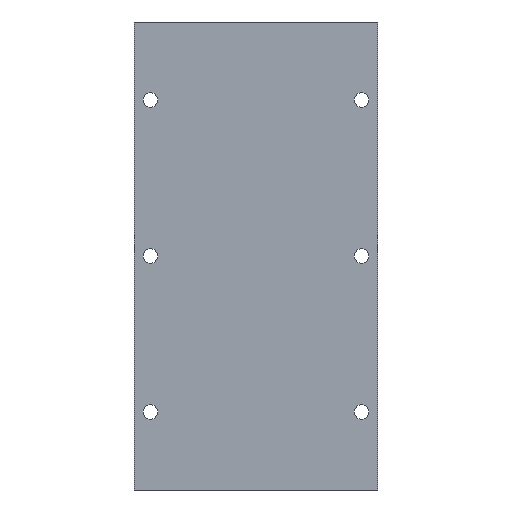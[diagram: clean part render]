
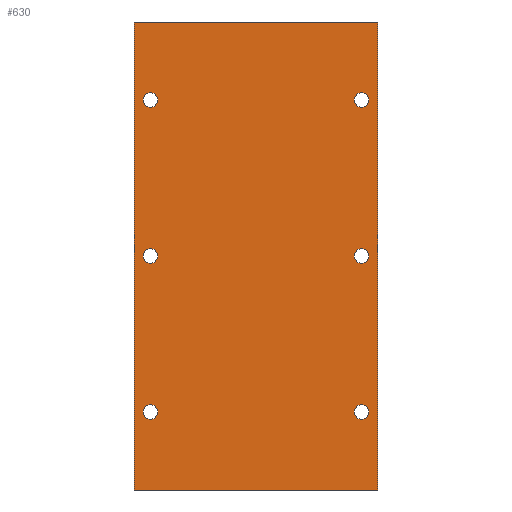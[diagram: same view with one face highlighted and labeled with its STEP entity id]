
A CAD part, front view. The second image highlights one B-rep face of the part: STEP entity #630.
In plain terms, the highlighted planar face has unit normal (0, -1, 0).
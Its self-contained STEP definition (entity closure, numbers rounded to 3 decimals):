
#14 = VERTEX_POINT ( 'NONE', #584 ) ;
#15 = DIRECTION ( 'NONE',  ( 0., 1., 0. ) ) ;
#17 = CARTESIAN_POINT ( 'NONE',  ( 37.5, -3., 0. ) ) ;
#20 = VECTOR ( 'NONE', #287, 1000. ) ;
#23 = CARTESIAN_POINT ( 'NONE',  ( -32.5, -3., 21.75 ) ) ;
#24 = ORIENTED_EDGE ( 'NONE', *, *, #634, .T. ) ;
#29 = VERTEX_POINT ( 'NONE', #399 ) ;
#30 = DIRECTION ( 'NONE',  ( 0., 1., 0. ) ) ;
#37 = ORIENTED_EDGE ( 'NONE', *, *, #552, .T. ) ;
#43 = CARTESIAN_POINT ( 'NONE',  ( -32.5, -3., 26.25 ) ) ;
#46 = EDGE_CURVE ( 'NONE', #29, #692, #759, .T. ) ;
#47 = ORIENTED_EDGE ( 'NONE', *, *, #567, .F. ) ;
#48 = VERTEX_POINT ( 'NONE', #166 ) ;
#57 = DIRECTION ( 'NONE',  ( 0., 1., 0. ) ) ;
#58 = VECTOR ( 'NONE', #279, 1000. ) ;
#74 = FACE_BOUND ( 'NONE', #464, .T. ) ;
#79 = FACE_BOUND ( 'NONE', #725, .T. ) ;
#84 = CARTESIAN_POINT ( 'NONE',  ( 32.5, -3., 24. ) ) ;
#90 = ORIENTED_EDGE ( 'NONE', *, *, #327, .T. ) ;
#93 = CARTESIAN_POINT ( 'NONE',  ( 32.5, -3., 72. ) ) ;
#98 = CIRCLE ( 'NONE', #276, 2.25 ) ;
#100 = EDGE_CURVE ( 'NONE', #692, #29, #314, .T. ) ;
#107 = CARTESIAN_POINT ( 'NONE',  ( -32.5, -3., 120. ) ) ;
#108 = DIRECTION ( 'NONE',  ( 0., 0., 1. ) ) ;
#111 = DIRECTION ( 'NONE',  ( 0., 1., 0. ) ) ;
#113 = EDGE_LOOP ( 'NONE', ( #421, #518 ) ) ;
#121 = DIRECTION ( 'NONE',  ( 0., 0., 1. ) ) ;
#123 = CIRCLE ( 'NONE', #160, 2.25 ) ;
#132 = ORIENTED_EDGE ( 'NONE', *, *, #624, .T. ) ;
#135 = DIRECTION ( 'NONE',  ( 0., 0., 1. ) ) ;
#145 = CARTESIAN_POINT ( 'NONE',  ( -32.5, -3., 72. ) ) ;
#150 = AXIS2_PLACEMENT_3D ( 'NONE', #686, #386, #753 ) ;
#156 = VERTEX_POINT ( 'NONE', #730 ) ;
#159 = DIRECTION ( 'NONE',  ( 0., 1., 0. ) ) ;
#160 = AXIS2_PLACEMENT_3D ( 'NONE', #377, #30, #559 ) ;
#166 = CARTESIAN_POINT ( 'NONE',  ( 32.5, -3., 69.75 ) ) ;
#174 = CARTESIAN_POINT ( 'NONE',  ( 32.5, -3., 74.25 ) ) ;
#176 = CARTESIAN_POINT ( 'NONE',  ( -32.5, -3., 24. ) ) ;
#184 = CARTESIAN_POINT ( 'NONE',  ( -32.5, -3., 24. ) ) ;
#192 = AXIS2_PLACEMENT_3D ( 'NONE', #84, #452, #381 ) ;
#193 = CIRCLE ( 'NONE', #351, 2.25 ) ;
#194 = DIRECTION ( 'NONE',  ( 0., 1., 0. ) ) ;
#195 = VERTEX_POINT ( 'NONE', #440 ) ;
#203 = VERTEX_POINT ( 'NONE', #23 ) ;
#213 = CARTESIAN_POINT ( 'NONE',  ( 32.5, -3., 117.75 ) ) ;
#218 = CARTESIAN_POINT ( 'NONE',  ( 32.5, -3., 24. ) ) ;
#220 = DIRECTION ( 'NONE',  ( 0., 0., -1. ) ) ;
#222 = LINE ( 'NONE', #523, #601 ) ;
#225 = AXIS2_PLACEMENT_3D ( 'NONE', #176, #662, #360 ) ;
#226 = EDGE_LOOP ( 'NONE', ( #24, #455 ) ) ;
#241 = CARTESIAN_POINT ( 'NONE',  ( 37.5, -3., 192. ) ) ;
#244 = FACE_BOUND ( 'NONE', #226, .T. ) ;
#257 = DIRECTION ( 'NONE',  ( 0., 1., 0. ) ) ;
#261 = DIRECTION ( 'NONE',  ( 1., 0., 0. ) ) ;
#268 = ORIENTED_EDGE ( 'NONE', *, *, #505, .T. ) ;
#276 = AXIS2_PLACEMENT_3D ( 'NONE', #563, #757, #321 ) ;
#278 = CIRCLE ( 'NONE', #192, 2.25 ) ;
#279 = DIRECTION ( 'NONE',  ( -1., 0., 0. ) ) ;
#282 = EDGE_CURVE ( 'NONE', #685, #203, #638, .T. ) ;
#283 = DIRECTION ( 'NONE',  ( 0., 0., 1. ) ) ;
#287 = DIRECTION ( 'NONE',  ( 0., 0., -1. ) ) ;
#296 = VERTEX_POINT ( 'NONE', #17 ) ;
#313 = CIRCLE ( 'NONE', #450, 2.25 ) ;
#314 = CIRCLE ( 'NONE', #581, 2.25 ) ;
#317 = EDGE_LOOP ( 'NONE', ( #37, #622 ) ) ;
#321 = DIRECTION ( 'NONE',  ( 0., 0., 1. ) ) ;
#327 = EDGE_CURVE ( 'NONE', #156, #296, #710, .T. ) ;
#332 = FACE_BOUND ( 'NONE', #113, .T. ) ;
#341 = DIRECTION ( 'NONE',  ( 0., 1., 0. ) ) ;
#343 = EDGE_CURVE ( 'NONE', #557, #619, #123, .T. ) ;
#351 = AXIS2_PLACEMENT_3D ( 'NONE', #107, #651, #283 ) ;
#354 = AXIS2_PLACEMENT_3D ( 'NONE', #485, #57, #121 ) ;
#360 = DIRECTION ( 'NONE',  ( 0., 0., 1. ) ) ;
#364 = EDGE_CURVE ( 'NONE', #465, #14, #750, .T. ) ;
#369 = EDGE_CURVE ( 'NONE', #628, #564, #278, .T. ) ;
#371 = EDGE_CURVE ( 'NONE', #14, #465, #313, .T. ) ;
#377 = CARTESIAN_POINT ( 'NONE',  ( -32.5, -3., 120. ) ) ;
#381 = DIRECTION ( 'NONE',  ( 0., 0., 1. ) ) ;
#382 = CIRCLE ( 'NONE', #702, 2.25 ) ;
#384 = EDGE_CURVE ( 'NONE', #48, #583, #98, .T. ) ;
#386 = DIRECTION ( 'NONE',  ( 0., 1., 0. ) ) ;
#399 = CARTESIAN_POINT ( 'NONE',  ( 32.5, -3., 122.25 ) ) ;
#405 = CIRCLE ( 'NONE', #225, 2.25 ) ;
#421 = ORIENTED_EDGE ( 'NONE', *, *, #46, .T. ) ;
#424 = CARTESIAN_POINT ( 'NONE',  ( 32.5, -3., 26.25 ) ) ;
#425 = DIRECTION ( 'NONE',  ( 0., 0., 1. ) ) ;
#427 = EDGE_CURVE ( 'NONE', #195, #156, #428, .T. ) ;
#428 = LINE ( 'NONE', #774, #20 ) ;
#436 = AXIS2_PLACEMENT_3D ( 'NONE', #241, #111, #536 ) ;
#440 = CARTESIAN_POINT ( 'NONE',  ( -37.5, -3., 144. ) ) ;
#450 = AXIS2_PLACEMENT_3D ( 'NONE', #145, #194, #135 ) ;
#452 = DIRECTION ( 'NONE',  ( 0., 1., 0. ) ) ;
#455 = ORIENTED_EDGE ( 'NONE', *, *, #384, .T. ) ;
#464 = EDGE_LOOP ( 'NONE', ( #543, #132 ) ) ;
#465 = VERTEX_POINT ( 'NONE', #773 ) ;
#485 = CARTESIAN_POINT ( 'NONE',  ( 32.5, -3., 120. ) ) ;
#486 = ORIENTED_EDGE ( 'NONE', *, *, #371, .T. ) ;
#500 = ORIENTED_EDGE ( 'NONE', *, *, #364, .T. ) ;
#501 = CARTESIAN_POINT ( 'NONE',  ( 37.5, -3., 0. ) ) ;
#505 = EDGE_CURVE ( 'NONE', #564, #628, #708, .T. ) ;
#510 = CARTESIAN_POINT ( 'NONE',  ( 32.5, -3., 21.75 ) ) ;
#518 = ORIENTED_EDGE ( 'NONE', *, *, #100, .T. ) ;
#520 = CARTESIAN_POINT ( 'NONE',  ( -71.238, -3., 144. ) ) ;
#523 = CARTESIAN_POINT ( 'NONE',  ( 37.5, -3., 192. ) ) ;
#527 = VECTOR ( 'NONE', #261, 1000. ) ;
#529 = ORIENTED_EDGE ( 'NONE', *, *, #369, .T. ) ;
#536 = DIRECTION ( 'NONE',  ( -1., 0., 0. ) ) ;
#543 = ORIENTED_EDGE ( 'NONE', *, *, #282, .T. ) ;
#544 = CARTESIAN_POINT ( 'NONE',  ( -32.5, -3., 122.25 ) ) ;
#552 = EDGE_CURVE ( 'NONE', #619, #557, #193, .T. ) ;
#557 = VERTEX_POINT ( 'NONE', #776 ) ;
#559 = DIRECTION ( 'NONE',  ( 0., 0., 1. ) ) ;
#560 = FACE_BOUND ( 'NONE', #629, .T. ) ;
#563 = CARTESIAN_POINT ( 'NONE',  ( 32.5, -3., 72. ) ) ;
#564 = VERTEX_POINT ( 'NONE', #510 ) ;
#567 = EDGE_CURVE ( 'NONE', #654, #296, #222, .T. ) ;
#581 = AXIS2_PLACEMENT_3D ( 'NONE', #592, #15, #425 ) ;
#583 = VERTEX_POINT ( 'NONE', #174 ) ;
#584 = CARTESIAN_POINT ( 'NONE',  ( -32.5, -3., 69.75 ) ) ;
#592 = CARTESIAN_POINT ( 'NONE',  ( 32.5, -3., 120. ) ) ;
#600 = PLANE ( 'NONE',  #436 ) ;
#601 = VECTOR ( 'NONE', #220, 1000. ) ;
#619 = VERTEX_POINT ( 'NONE', #544 ) ;
#622 = ORIENTED_EDGE ( 'NONE', *, *, #343, .T. ) ;
#624 = EDGE_CURVE ( 'NONE', #203, #685, #405, .T. ) ;
#628 = VERTEX_POINT ( 'NONE', #424 ) ;
#629 = EDGE_LOOP ( 'NONE', ( #500, #486 ) ) ;
#630 = ADVANCED_FACE ( 'NONE', ( #659, #332, #560, #244, #74, #79, #689 ), #600, .F. ) ;
#632 = CARTESIAN_POINT ( 'NONE',  ( 37.5, -3., 144. ) ) ;
#634 = EDGE_CURVE ( 'NONE', #583, #48, #382, .T. ) ;
#636 = LINE ( 'NONE', #520, #58 ) ;
#638 = CIRCLE ( 'NONE', #695, 2.25 ) ;
#651 = DIRECTION ( 'NONE',  ( 0., 1., 0. ) ) ;
#654 = VERTEX_POINT ( 'NONE', #632 ) ;
#659 = FACE_BOUND ( 'NONE', #317, .T. ) ;
#662 = DIRECTION ( 'NONE',  ( 0., 1., 0. ) ) ;
#671 = EDGE_CURVE ( 'NONE', #654, #195, #636, .T. ) ;
#673 = ORIENTED_EDGE ( 'NONE', *, *, #427, .T. ) ;
#678 = DIRECTION ( 'NONE',  ( 0., 0., 1. ) ) ;
#685 = VERTEX_POINT ( 'NONE', #43 ) ;
#686 = CARTESIAN_POINT ( 'NONE',  ( -32.5, -3., 72. ) ) ;
#689 = FACE_OUTER_BOUND ( 'NONE', #736, .T. ) ;
#692 = VERTEX_POINT ( 'NONE', #213 ) ;
#695 = AXIS2_PLACEMENT_3D ( 'NONE', #184, #257, #678 ) ;
#697 = DIRECTION ( 'NONE',  ( 0., 0., 1. ) ) ;
#702 = AXIS2_PLACEMENT_3D ( 'NONE', #93, #159, #697 ) ;
#708 = CIRCLE ( 'NONE', #729, 2.25 ) ;
#710 = LINE ( 'NONE', #501, #527 ) ;
#718 = ORIENTED_EDGE ( 'NONE', *, *, #671, .T. ) ;
#725 = EDGE_LOOP ( 'NONE', ( #529, #268 ) ) ;
#729 = AXIS2_PLACEMENT_3D ( 'NONE', #218, #341, #108 ) ;
#730 = CARTESIAN_POINT ( 'NONE',  ( -37.5, -3., 0. ) ) ;
#736 = EDGE_LOOP ( 'NONE', ( #47, #718, #673, #90 ) ) ;
#750 = CIRCLE ( 'NONE', #150, 2.25 ) ;
#753 = DIRECTION ( 'NONE',  ( 0., 0., 1. ) ) ;
#757 = DIRECTION ( 'NONE',  ( 0., 1., 0. ) ) ;
#759 = CIRCLE ( 'NONE', #354, 2.25 ) ;
#773 = CARTESIAN_POINT ( 'NONE',  ( -32.5, -3., 74.25 ) ) ;
#774 = CARTESIAN_POINT ( 'NONE',  ( -37.5, -3., 192. ) ) ;
#776 = CARTESIAN_POINT ( 'NONE',  ( -32.5, -3., 117.75 ) ) ;
